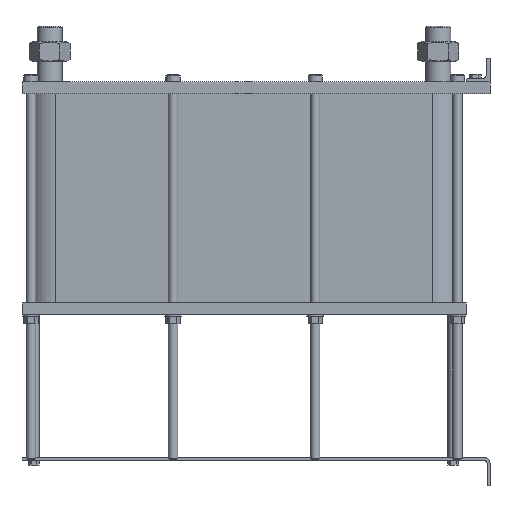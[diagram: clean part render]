
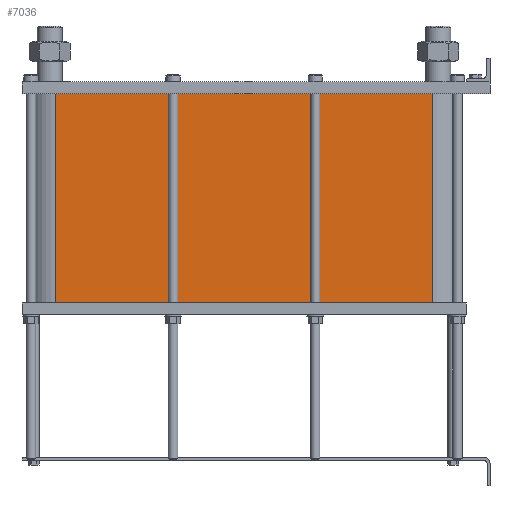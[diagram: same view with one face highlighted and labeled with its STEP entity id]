
A CAD part, left-side view. The second image highlights one B-rep face of the part: STEP entity #7036.
In plain terms, the highlighted planar face has unit normal (-1, 0, 0).
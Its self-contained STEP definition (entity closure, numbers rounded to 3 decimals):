
#999=LINE('',#15640,#1553);
#1031=LINE('',#15723,#1585);
#1032=LINE('',#15726,#1586);
#1033=LINE('',#15727,#1587);
#1553=VECTOR('',#9658,10.);
#1585=VECTOR('',#9736,10.);
#1586=VECTOR('',#9741,10.);
#1587=VECTOR('',#9742,10.);
#2117=FACE_OUTER_BOUND('',#2671,.T.);
#2671=EDGE_LOOP('',(#6246,#6247,#6248,#6249));
#3527=VERTEX_POINT('',#15634);
#3529=VERTEX_POINT('',#15638);
#3556=VERTEX_POINT('',#15720);
#3557=VERTEX_POINT('',#15722);
#4425=EDGE_CURVE('',#3529,#3527,#999,.T.);
#4466=EDGE_CURVE('',#3557,#3556,#1031,.T.);
#4468=EDGE_CURVE('',#3527,#3556,#1032,.T.);
#4469=EDGE_CURVE('',#3557,#3529,#1033,.T.);
#6246=ORIENTED_EDGE('',*,*,#4468,.F.);
#6247=ORIENTED_EDGE('',*,*,#4425,.F.);
#6248=ORIENTED_EDGE('',*,*,#4469,.F.);
#6249=ORIENTED_EDGE('',*,*,#4466,.T.);
#6608=PLANE('',#7812);
#7036=ADVANCED_FACE('',(#2117),#6608,.T.);
#7812=AXIS2_PLACEMENT_3D('',#15725,#9739,#9740);
#9658=DIRECTION('',(0.,0.,-1.));
#9736=DIRECTION('',(0.,0.,-1.));
#9739=DIRECTION('center_axis',(-1.,0.,0.));
#9740=DIRECTION('ref_axis',(0.,1.,0.));
#9741=DIRECTION('',(0.,1.,0.));
#9742=DIRECTION('',(0.,-1.,0.));
#15634=CARTESIAN_POINT('',(-72.,97.5,-353.4));
#15638=CARTESIAN_POINT('',(-72.,97.5,0.));
#15640=CARTESIAN_POINT('',(-72.,97.5,0.));
#15720=CARTESIAN_POINT('',(-72.,733.5,-353.4));
#15722=CARTESIAN_POINT('',(-72.,733.5,0.));
#15723=CARTESIAN_POINT('',(-72.,733.5,0.));
#15725=CARTESIAN_POINT('Origin',(-72.,97.5,0.));
#15726=CARTESIAN_POINT('',(-72.,256.5,-353.4));
#15727=CARTESIAN_POINT('',(-72.,733.5,0.));
